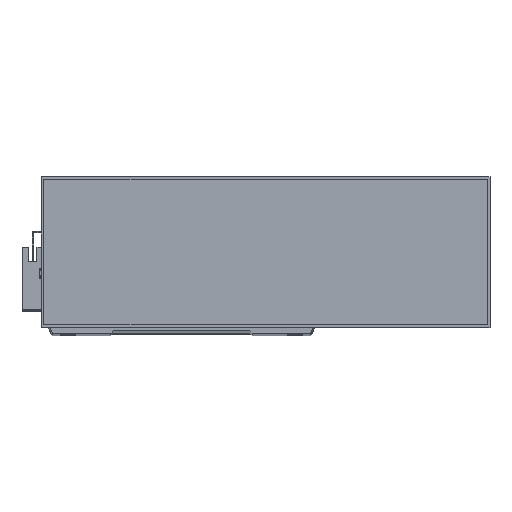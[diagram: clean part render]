
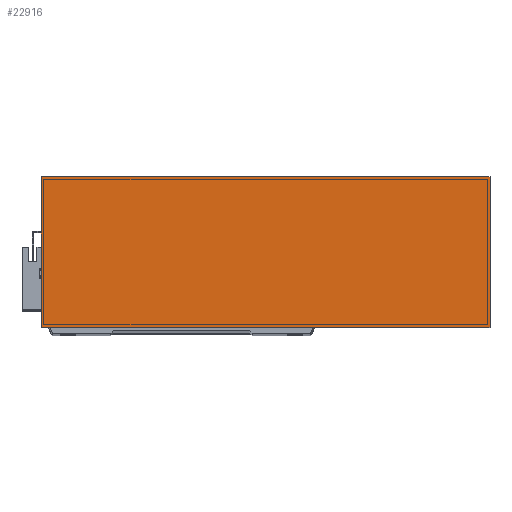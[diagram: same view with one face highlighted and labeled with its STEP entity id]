
A CAD part, top view. The second image highlights one B-rep face of the part: STEP entity #22916.
In plain terms, the highlighted planar face has unit normal (0, 0, 1).
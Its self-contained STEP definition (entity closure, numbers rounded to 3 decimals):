
#375 = CARTESIAN_POINT ( 'NONE',  ( 0., 0., 50. ) ) ;
#787 = LINE ( 'NONE', #23584, #11899 ) ;
#1058 = VECTOR ( 'NONE', #5502, 1000. ) ;
#1644 = VECTOR ( 'NONE', #22351, 1000. ) ;
#1674 = DIRECTION ( 'NONE',  ( 0., 1., 0. ) ) ;
#2481 = FACE_OUTER_BOUND ( 'NONE', #12465, .T. ) ;
#2860 = DIRECTION ( 'NONE',  ( -1., 0., 0. ) ) ;
#5462 = EDGE_CURVE ( 'NONE', #9978, #13454, #23784, .T. ) ;
#5502 = DIRECTION ( 'NONE',  ( -1., 0., 0. ) ) ;
#5517 = AXIS2_PLACEMENT_3D ( 'NONE', #18173, #16096, #2860 ) ;
#5637 = CARTESIAN_POINT ( 'NONE',  ( 0., 93., 50. ) ) ;
#5835 = VECTOR ( 'NONE', #1674, 1000. ) ;
#8543 = CARTESIAN_POINT ( 'NONE',  ( 0., 0., 50. ) ) ;
#8964 = VERTEX_POINT ( 'NONE', #20638 ) ;
#9136 = ORIENTED_EDGE ( 'NONE', *, *, #23187, .T. ) ;
#9978 = VERTEX_POINT ( 'NONE', #25379 ) ;
#10519 = CARTESIAN_POINT ( 'NONE',  ( 277., 0., 50. ) ) ;
#11899 = VECTOR ( 'NONE', #25808, 1000. ) ;
#12022 = EDGE_CURVE ( 'NONE', #14533, #8964, #13467, .T. ) ;
#12465 = EDGE_LOOP ( 'NONE', ( #9136, #19427, #23836, #26632 ) ) ;
#13454 = VERTEX_POINT ( 'NONE', #25519 ) ;
#13467 = LINE ( 'NONE', #375, #1644 ) ;
#13804 = PLANE ( 'NONE',  #5517 ) ;
#14533 = VERTEX_POINT ( 'NONE', #8543 ) ;
#16096 = DIRECTION ( 'NONE',  ( 0., 0., -1. ) ) ;
#18173 = CARTESIAN_POINT ( 'NONE',  ( 0., 0., 50. ) ) ;
#19427 = ORIENTED_EDGE ( 'NONE', *, *, #12022, .T. ) ;
#20638 = CARTESIAN_POINT ( 'NONE',  ( 277., 0., 50. ) ) ;
#22351 = DIRECTION ( 'NONE',  ( 1., 0., 0. ) ) ;
#22653 = LINE ( 'NONE', #10519, #5835 ) ;
#22916 = ADVANCED_FACE ( 'NONE', ( #2481 ), #13804, .F. ) ;
#23187 = EDGE_CURVE ( 'NONE', #13454, #14533, #787, .T. ) ;
#23584 = CARTESIAN_POINT ( 'NONE',  ( 0., 0., 50. ) ) ;
#23784 = LINE ( 'NONE', #5637, #1058 ) ;
#23836 = ORIENTED_EDGE ( 'NONE', *, *, #26985, .T. ) ;
#25379 = CARTESIAN_POINT ( 'NONE',  ( 277., 93., 50. ) ) ;
#25519 = CARTESIAN_POINT ( 'NONE',  ( 0., 93., 50. ) ) ;
#25808 = DIRECTION ( 'NONE',  ( 0., -1., 0. ) ) ;
#26632 = ORIENTED_EDGE ( 'NONE', *, *, #5462, .T. ) ;
#26985 = EDGE_CURVE ( 'NONE', #8964, #9978, #22653, .T. ) ;
